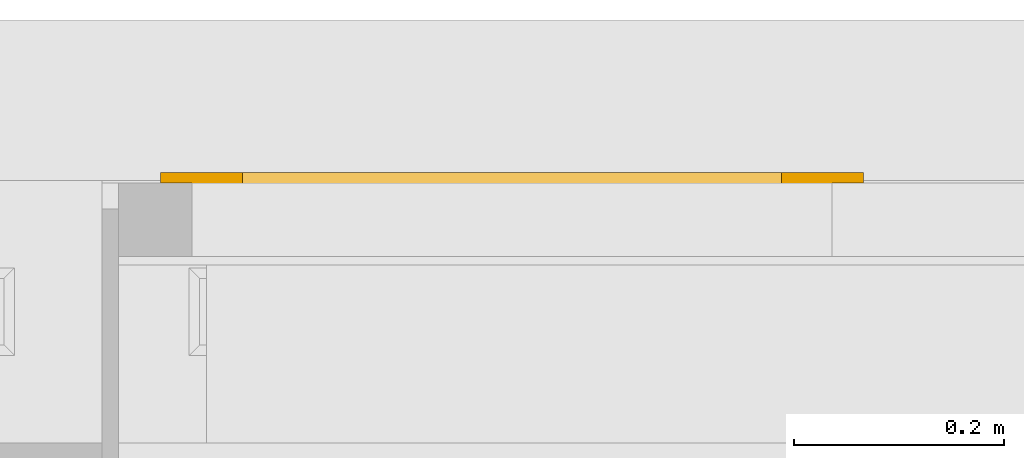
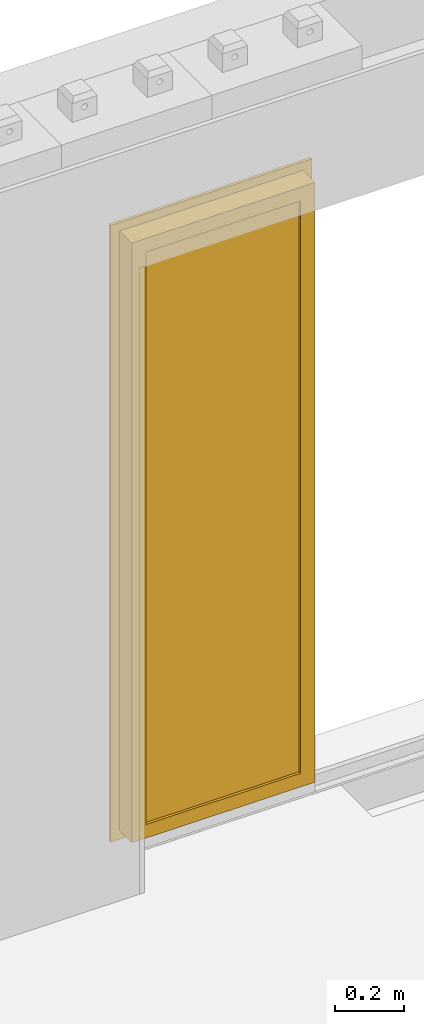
# One storey, part 3 of 3: 1 window.
"""IFC4 building model written with IfcOpenShell, lengths in centimetres."""

from ifc_helpers import new_model, entity, si_unit, converted_unit, direction, frame, origin, place, context, subcontext, project, spatial, polygons, source, transform, mapped, material, constituent, constituent_set, type_object, type_shapes, element, save


model = new_model("IFC4")

# Units and contexts
model_context = context("Model", 3, precision=0.001, world=origin(), true_north=direction((0.0, 1.0)))
body_context = subcontext(model_context, "Body", "Model", "MODEL_VIEW")
ifc_project = project(units=[si_unit("LENGTHUNIT", "METRE", prefix="CENTI"), si_unit("AREAUNIT", "SQUARE_METRE"), si_unit("VOLUMEUNIT", "CUBIC_METRE"), converted_unit("PLANEANGLEUNIT", "DEGREE", entity("IfcPlaneAngleMeasure", 0.017453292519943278), si_unit("PLANEANGLEUNIT", "RADIAN"), dimensions=[0, 0, 0, 0, 0, 0, 0])], contexts=[model_context])

# Site, building, storey
site_placement = place(None, origin())
site = spatial("IfcSite", under=ifc_project, at=site_placement, Name="Default", CompositionType="ELEMENT")
building_placement = place(site_placement, origin())
building = spatial("IfcBuilding", under=site, at=building_placement, CompositionType="ELEMENT")
storey_placement = place(building_placement, frame((0.0, 0.0, -12.0)))
storey = spatial("IfcBuildingStorey", under=building, at=storey_placement, Name="L00__ABOVE Slab", CompositionType="ELEMENT", Elevation=-12.000000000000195)

# Window
ifc_material_1 = material(Name="Miscellaneous_Profile_Aluminium", Category="Miscellaneous")
ifc_constituent_1 = constituent(ifc_material_1, Name="Miscellaneous_Profile_Aluminium", Category="Miscellaneous", fraction=0.4477302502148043)
ifc_material_2 = material(Name="Unassigned_Glazing", Category="Unassigned")
ifc_constituent_2 = constituent(ifc_material_2, Name="Unassigned_Glazing", Category="Unassigned", fraction=0.5522697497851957)
ifc_constituent_set_1 = constituent_set(constituents=[ifc_constituent_1, ifc_constituent_2])
ifc_constituent_3 = constituent(ifc_material_1, Name="_SASH", Category="Miscellaneous", fraction=0.4397097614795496)
ifc_constituent_4 = constituent(ifc_material_2, Name="_GLAZING", Category="Unassigned", fraction=0.5602902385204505)
ifc_constituent_set_2 = constituent_set(constituents=[ifc_constituent_3, ifc_constituent_4])
window_type = type_object("IfcWindowType", Name="Windows : wdw_s__PANEL__Mobile, Hung, Interior__wp : Glazed, Bottom&side hung", PartitioningType="NOTDEFINED", PredefinedType="WINDOW", material=ifc_constituent_set_2)
shared_shape = source(origin(), body_context, "Body", "Tessellation", [
    polygons([(-2.5828829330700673e-44, 2.696870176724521e-13, 0.0), (60.99999999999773, 7.292813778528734e-14, 0.0), (60.99999999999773, 7.292813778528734e-14, 211.00000000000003), (-2.5828829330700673e-44, 2.696870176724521e-13, 211.00000000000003), (4.799999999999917, 2.540166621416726e-13, 206.20000000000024), (56.19999999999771, 8.859849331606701e-14, 206.20000000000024), (56.19999999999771, 8.859849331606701e-14, 4.800000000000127), (4.799999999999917, 2.540166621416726e-13, 4.80000000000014), (2.4062837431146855e-14, 7.000000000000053, 211.00000000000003), (2.2558417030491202e-14, 7.000000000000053, 0.0), (60.99999999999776, 7.000000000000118, 0.0), (60.99999999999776, 7.000000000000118, 211.00000000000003), (4.799999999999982, 8.00000000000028, 4.80000000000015), (4.799999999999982, 8.00000000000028, 206.20000000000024), (56.19999999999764, 8.000000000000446, 4.800000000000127), (56.199999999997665, 8.000000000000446, 206.20000000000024), (-3.0000000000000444, 6.99999999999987, -2.999999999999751), (63.999999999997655, 7.000000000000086, -2.999999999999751), (63.999999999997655, 7.000000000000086, 214.0000000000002), (-3.000000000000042, 6.99999999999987, 214.0000000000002), (-3.0000000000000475, 8.000000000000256, -2.999999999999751), (-3.0000000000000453, 8.000000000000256, 214.0000000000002), (63.999999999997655, 8.000000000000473, 214.0000000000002), (63.999999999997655, 8.000000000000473, -2.999999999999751)], [[[1, 2, 3, 4], [5, 6, 7, 8]], [[4, 9, 10, 1]], [[2, 11, 12, 3]], [[1, 10, 11, 2]], [[13, 14, 5, 8]], [[15, 13, 8, 7]], [[16, 15, 7, 6]], [[17, 18, 19, 20], [10, 9, 12, 11]], [[21, 22, 23, 24], [14, 13, 15, 16]], [[24, 18, 17, 21]], [[23, 19, 18, 24]], [[21, 17, 20, 22]], [[3, 12, 9, 4]], [[5, 14, 16, 6]], [[22, 20, 19, 23]]], closed=True),
    polygons([(4.800000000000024, 3.5000000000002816, 206.20000000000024), (56.199999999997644, 3.5000000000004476, 206.20000000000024), (56.199999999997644, 3.5000000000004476, 4.800000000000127), (4.800000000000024, 3.5000000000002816, 4.800000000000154), (4.800000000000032, 0.9000000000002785, 206.20000000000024), (4.800000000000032, 0.9000000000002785, 4.800000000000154), (56.19999999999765, 0.9000000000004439, 4.800000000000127), (56.19999999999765, 0.9000000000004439, 206.20000000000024)], [[[1, 2, 3, 4]], [[5, 1, 4, 6]], [[6, 4, 3, 7]], [[7, 3, 2, 8]], [[5, 6, 7, 8]], [[8, 2, 1, 5]]], closed=True),
])
type_shapes(window_type, [shared_shape])
window_placement = place(storey_placement, frame((2852.3539604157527, 828.99894701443, 19.80000000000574)))
element("IfcWindow", 1, at=window_placement, inside=storey, type_object=window_type, material=ifc_constituent_set_1, Name="Windows : wdw_s__PANEL__Mobile, Hung, Interior__wp : Glazed, Bottom&side hung", OverallHeight=98.00000000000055, OverallWidth=71.99999999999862, PartitioningType="NOTDEFINED", PredefinedType="WINDOW", context=body_context, shape_type="MappedRepresentation", body=[
    mapped(shared_shape, transform((0.0, 0.0, 0.0), scale=1.0)),
])

save(model, "model.ifc")
